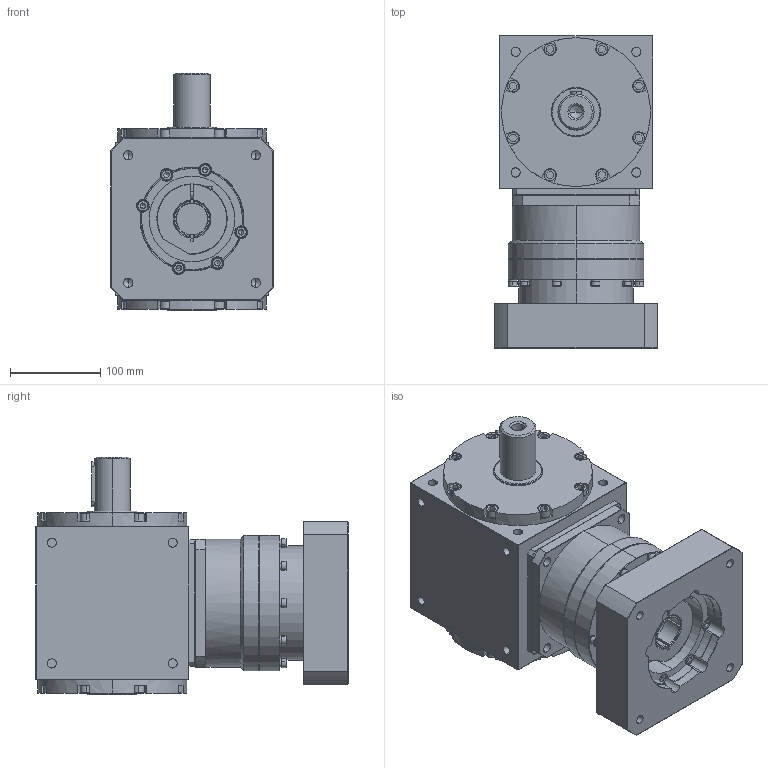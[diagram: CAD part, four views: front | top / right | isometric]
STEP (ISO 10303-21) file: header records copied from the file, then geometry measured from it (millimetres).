
FILE_DESCRIPTION (( 'STEP AP203' ), '1' );
FILE_NAME ('AT170-FR1-L1 35-114.3-200-M12.STEP', '2024-12-26T03:10:48', ( '' ), ( '' ), 'SwSTEP 2.0', 'SolidWorks 2021', '' );
FILE_SCHEMA (( 'CONFIG_CONTROL_DESIGN' ));
Length unit declared in the file: millimetre
Products named in the file (3): AT170-FR1-L1 35-114.3-200-M12; VRB-142-L1-S2-P1 35-114.3-200-M12; AT170-FR1
Assembly tree (2 placements, depth 2):
  AT170-FR1-L1 35-114.3-200-M12
    AT170-FR1
    VRB-142-L1-S2-P1 35-114.3-200-M12
Bounding box: 180 x 347 x 264 mm (x, y, z)
Volume: 8834592.3 mm3; surface area: 542345.3 mm2
Topology: 40 solids, 40 shells, 1320 faces, 3222 edges, 2011 vertices
Faces by surface type: plane 662, cylinder 457, cone 163, torus 34, bspline 4
Entity records: 39084 total; most frequent: CARTESIAN_POINT 7685, DIRECTION 6751, ORIENTED_EDGE 6328, EDGE_CURVE 3164, AXIS2_PLACEMENT_3D 2553, VERTEX_POINT 2011, VECTOR 1645, LINE 1645
